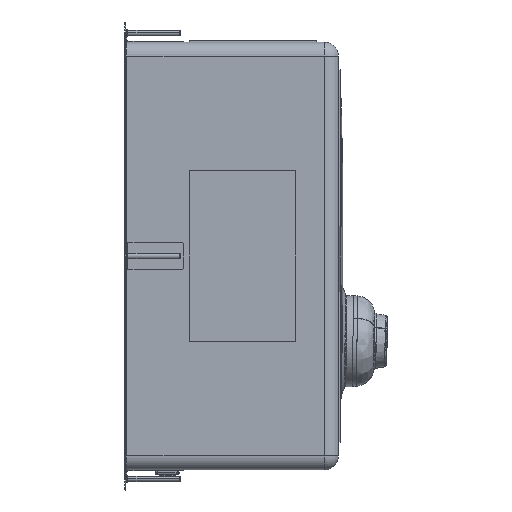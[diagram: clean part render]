
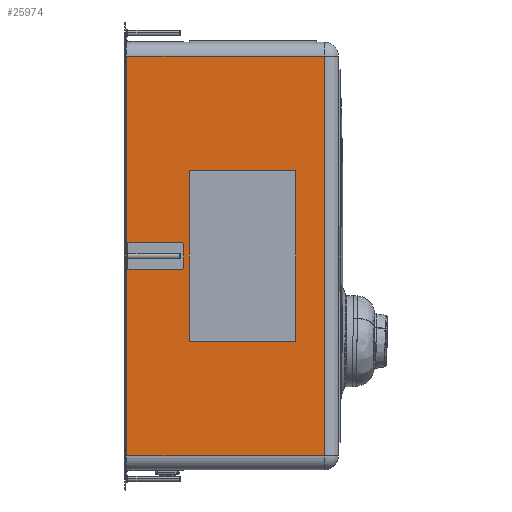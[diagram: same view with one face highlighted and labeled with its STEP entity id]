
A CAD part, left-side view. The second image highlights one B-rep face of the part: STEP entity #25974.
In plain terms, the highlighted planar face has unit normal (-1, 0, 0).
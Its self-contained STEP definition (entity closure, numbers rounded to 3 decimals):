
#12609=DIRECTION('',(0.,1.,0.));
#12610=VECTOR('',#12609,186.);
#12611=CARTESIAN_POINT('',(-251.,-187.,-188.));
#12612=LINE('',#12611,#12610);
#12621=DIRECTION('',(0.,-1.,0.));
#12622=VECTOR('',#12621,186.);
#12623=CARTESIAN_POINT('',(-251.,-1.,188.));
#12624=LINE('',#12623,#12622);
#20840=DIRECTION('',(0.,0.,1.));
#20841=VECTOR('',#20840,376.);
#20842=CARTESIAN_POINT('',(-251.,-1.,-188.));
#20843=LINE('',#20842,#20841);
#20901=DIRECTION('',(0.,0.,-1.));
#20902=VECTOR('',#20901,376.);
#20903=CARTESIAN_POINT('',(-251.,-187.,188.));
#20904=LINE('',#20903,#20902);
#21164=CARTESIAN_POINT('',(-251.,-1.,-188.));
#21166=VERTEX_POINT('',#21164);
#21311=CARTESIAN_POINT('',(-251.,-1.,188.));
#21312=VERTEX_POINT('',#21311);
#21506=CARTESIAN_POINT('',(-251.,-187.,188.));
#21507=VERTEX_POINT('',#21506);
#21527=CARTESIAN_POINT('',(-251.,-187.,-188.));
#21528=VERTEX_POINT('',#21527);
#25960=CARTESIAN_POINT('',(-251.,-200.,-188.));
#25961=DIRECTION('',(1.,0.,0.));
#25962=DIRECTION('',(0.,0.,-1.));
#25963=AXIS2_PLACEMENT_3D('',#25960,#25961,#25962);
#25964=PLANE('',#25963);
#25966=ORIENTED_EDGE('',*,*,#25965,.T.);
#25968=ORIENTED_EDGE('',*,*,#25967,.T.);
#25969=ORIENTED_EDGE('',*,*,#25950,.T.);
#25971=ORIENTED_EDGE('',*,*,#25970,.T.);
#25972=EDGE_LOOP('',(#25966,#25968,#25969,#25971));
#25973=FACE_OUTER_BOUND('',#25972,.F.);
#25950=EDGE_CURVE('',#21528,#21166,#12612,.T.);
#25965=EDGE_CURVE('',#21312,#21507,#12624,.T.);
#25967=EDGE_CURVE('',#21507,#21528,#20904,.T.);
#25970=EDGE_CURVE('',#21166,#21312,#20843,.T.);
#25974=ADVANCED_FACE('',(#25973),#25964,.F.);
